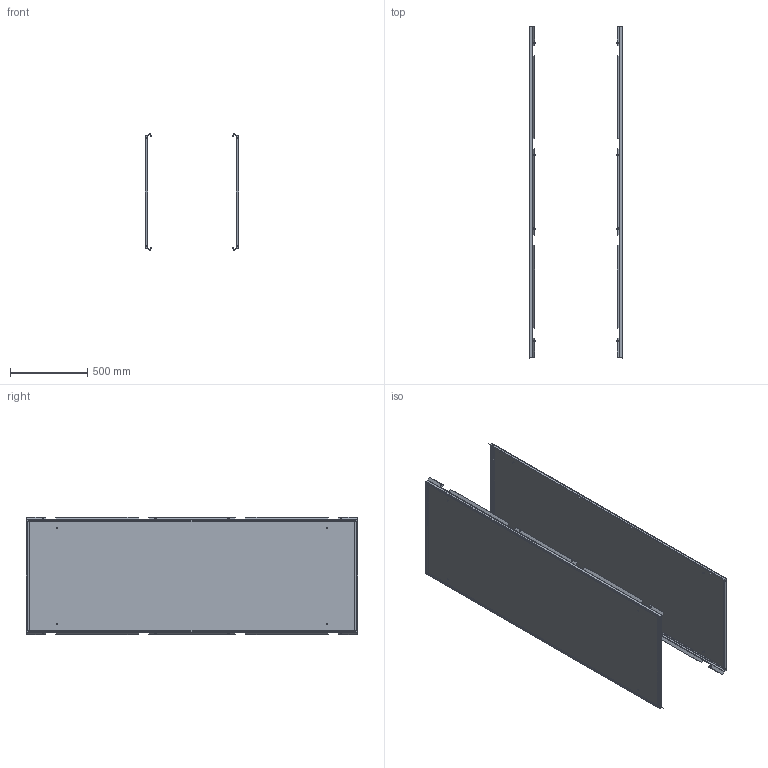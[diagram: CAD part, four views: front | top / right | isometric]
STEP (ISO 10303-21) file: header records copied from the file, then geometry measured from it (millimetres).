
FILE_DESCRIPTION (( 'STEP AP203' ), '1' );
FILE_NAME ('MA1.200.060822.20.00 AleSta-PS228 Áîêîâûå ïàíåëè AleSta 2200x800 (2 øò).STEP', '2025-02-19T14:41:56', ( '' ), ( '' ), 'SwSTEP 2.0', 'SolidWorks 2021', '' );
FILE_SCHEMA (( 'CONFIG_CONTROL_DESIGN' ));
Length unit declared in the file: millimetre
Products named in the file (6): Âèíò ñàìîíàðåçàþùèé ñ ïîòàéíîé ãîëîâêîé Ì5x16 DIN 7500 M TORX, êëàññ ïðî÷íîñòè 8.8, îöèíêîâàííàÿ ñòàëü_Œ5å16; Øïèëüêà Ì6õ12_˜¯¨«ìª  Œ6å12; MA1.200.060822.20.00 AleSta-PS228  Áîêîâûå ïàíåëè AleSta 2200x800 (2 øò); Óïëîòíèòåëü ïàíåëè íèæíåé_ ‚=2200; MA1.200.060620.21.01 Ïîëîòíî ñòåíêè áîêîâîé 600õ2000_2200å800; MA1.200.060620.21.00 Ñòåíêà áîêîâàÿ 600x2000_2200å800
Assembly tree (24 placements, depth 3):
  MA1.200.060822.20.00 AleSta-PS228  Áîêîâûå ïàíåëè AleSta 2200x800 (2 øò)
    MA1.200.060620.21.00 Ñòåíêà áîêîâàÿ 600x2000_2200å800  x2
      MA1.200.060620.21.01 Ïîëîòíî ñòåíêè áîêîâîé 600õ2000_2200å800
      Øïèëüêà Ì6õ12_˜¯¨«ìª  Œ6å12
      Óïëîòíèòåëü ïàíåëè íèæíåé_ ‚=2200
    Âèíò ñàìîíàðåçàþùèé ñ ïîòàéíîé ãîëîâêîé Ì5x16 DIN 7500 M TORX, êëàññ ïðî÷íîñòè 8.8, îöèíêîâàííàÿ ñòàëü_Œ5å16  x16
Bounding box: 606 x 2145 x 760.73 mm (x, y, z)
Volume: 4224602.3 mm3; surface area: 7378610.4 mm2
Topology: 28 solids, 28 shells, 1116 faces, 2788 edges, 1784 vertices
Faces by surface type: cylinder 636, plane 368, cone 80, bspline 16, torus 16
Entity records: 8629 total; most frequent: CARTESIAN_POINT 1714, DIRECTION 1281, ORIENTED_EDGE 1158, EDGE_CURVE 579, AXIS2_PLACEMENT_3D 475, VERTEX_POINT 360, VECTOR 331, LINE 331
